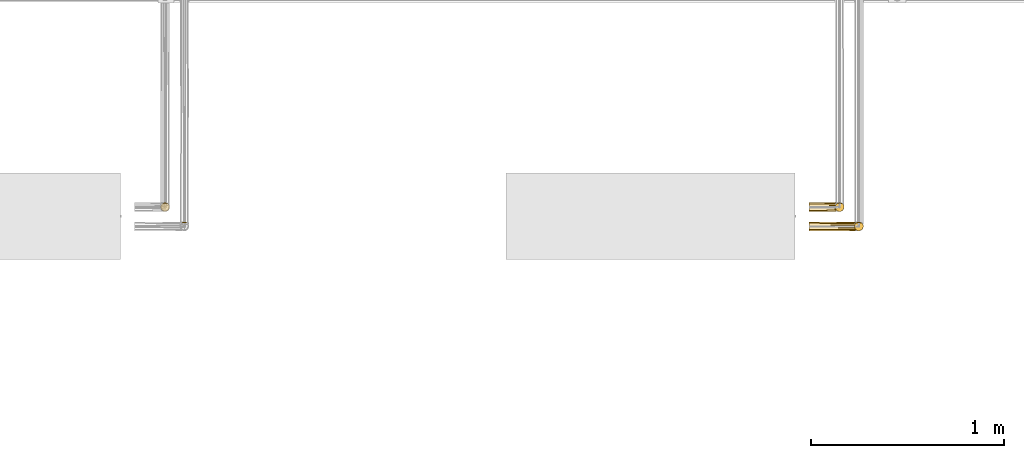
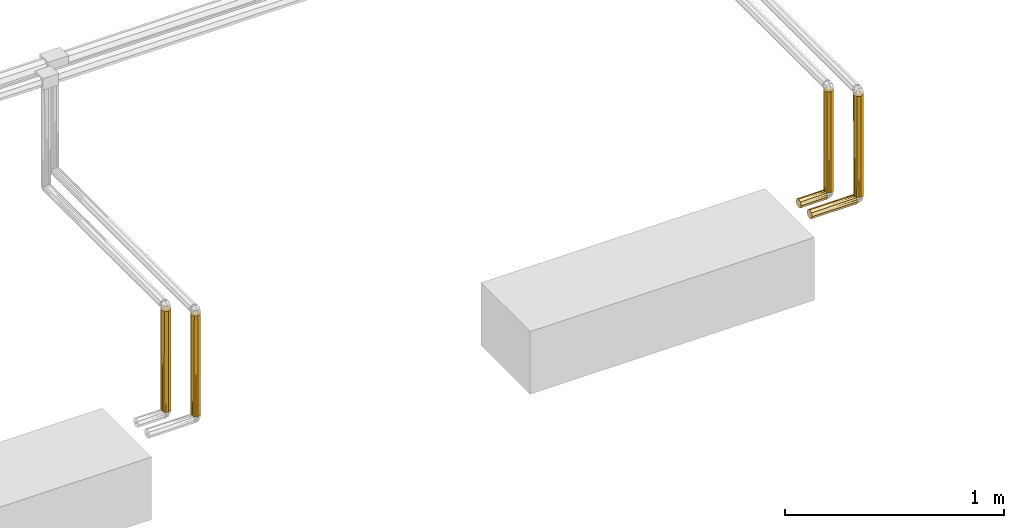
# One storey, part 222 of 652: 6 coverings.
"""IFC2X3 building model written with IfcOpenShell, lengths in millimetres."""

from ifc_helpers import new_model, entity, si_unit, converted_unit, direction, frame, origin, place, context, subcontext, project, spatial, faceted_brep, material, type_object, element, save


model = new_model("IFC2X3")

# Units and contexts
model_context = context("Model", 3, precision=0.01, world=frame((0.0, 0.0, 308426.39999999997)), true_north=direction((6.123233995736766e-17, 1.0)))
plan_context = context("Plan", 3, precision=0.01, world=frame((0.0, 0.0, 308426.39999999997)), true_north=direction((6.123233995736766e-17, 1.0)))
body_context = subcontext(model_context, "Body", "Model", "MODEL_VIEW")
ifc_project = project(units=[si_unit("LENGTHUNIT", "METRE", prefix="MILLI"), si_unit("AREAUNIT", "SQUARE_METRE"), si_unit("VOLUMEUNIT", "CUBIC_METRE"), converted_unit("PLANEANGLEUNIT", "DEGREE", entity("IfcPlaneAngleMeasure", 0.017453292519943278), si_unit("PLANEANGLEUNIT", "RADIAN"), dimensions=[0, 0, 0, 0, 0, 0, 0])], contexts=[model_context, plan_context])

# Site, building, storey
site_placement = place(None, origin())
site = spatial("IfcSite", under=ifc_project, at=site_placement, Name="Default", CompositionType="ELEMENT")
building_placement = place(site_placement, origin())
building = spatial("IfcBuilding", under=site, at=building_placement, CompositionType="ELEMENT")
storey_placement = place(building_placement, frame((0.0, 0.0, 1730.6999999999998)))
storey = spatial("IfcBuildingStorey", under=building, at=storey_placement, Name="EG_Produktion_FFB", CompositionType="ELEMENT", Elevation=1730.6999999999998)

# Coverings
ifc_material = material(Name="Dämmung - Armaflex-Schlauch")
covering_type = type_object("IfcCoveringType", Name="Rohrdämmung außen:Armaflex-Schlauch", PredefinedType="INSULATION")
covering_1_placement = place(storey_placement, frame((69406.95466089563, 66844.67878550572, 2716.3549777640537)))
element("IfcCovering", 1, at=covering_1_placement, inside=storey, type_object=covering_type, material=ifc_material, Name="Rohrdämmung außen:Armaflex-Schlauch", ObjectType="Rohrdämmung außen:Armaflex-Schlauch", PredefinedType="INSULATION", context=body_context, shape_type="Brep", body=[
    faceted_brep([(7.407522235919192, 9.787128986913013, 1.5952722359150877), (7.407522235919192, 40.92841548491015, 1.5952722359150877), (11.448105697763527, 43.951164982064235, 1.5952722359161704), (15.488689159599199, 46.97391447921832, 1.595272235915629), (20.42323069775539, 48.047093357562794, 1.595272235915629), (25.35777223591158, 49.12027223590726, 1.595272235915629), (29.558428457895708, 47.3803034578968, 1.595272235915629), (33.759084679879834, 45.64033467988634, 1.595272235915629), (37.95974090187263, 43.90036590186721, 1.595272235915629), (42.160397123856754, 42.160397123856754, 1.595272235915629), (43.90036590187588, 37.95974090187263, 1.5952722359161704), (45.64033467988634, 33.759084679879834, 1.595272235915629), (47.253562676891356, 29.864407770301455, 1.5952722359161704), (49.12027223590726, 25.35777223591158, 1.5952722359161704), (47.253562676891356, 20.851136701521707, 1.5952722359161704), (45.64033467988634, 16.956459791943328, 1.595272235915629), (43.90036590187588, 12.755803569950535, 1.5952722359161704), (42.160397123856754, 8.55514734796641, 1.595272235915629), (37.95974090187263, 6.815178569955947, 1.595272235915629), (33.759084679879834, 5.075209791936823, 1.595272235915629), (29.864407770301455, 3.4619817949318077, 1.5952722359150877), (25.35777223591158, 1.5952722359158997, 1.595272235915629), (20.42323069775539, 2.6684511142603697, 1.595272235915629), (15.488689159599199, 3.7416299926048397, 1.595272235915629), (11.448105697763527, 6.764379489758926, 1.595272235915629), (25.357772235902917, 1.5952722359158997, 565.6947722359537), (29.864407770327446, 3.4619817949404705, 565.6947722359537), (34.37104330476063, 5.328691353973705, 565.6947722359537), (38.26572021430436, 6.941919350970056, 565.6947722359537), (42.16039712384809, 8.55514734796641, 565.6947722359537), (43.90036590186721, 12.755803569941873, 565.6947722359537), (45.64033467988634, 16.956459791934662, 565.6947722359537), (47.38030345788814, 21.157116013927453, 565.6947722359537), (49.1202722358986, 25.35777223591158, 565.6947722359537), (48.047093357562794, 30.29231377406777, 565.6947722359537), (46.97391447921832, 35.22685531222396, 565.6947722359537), (43.95116498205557, 39.267438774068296, 565.6947722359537), (40.92841548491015, 43.30802223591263, 565.6947722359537), (9.787128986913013, 43.30802223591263, 565.6947722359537), (6.764379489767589, 39.26743877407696, 565.6947722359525), (3.7416299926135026, 35.22685531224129, 565.6947722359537), (2.6684511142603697, 30.292313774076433, 565.6947722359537), (1.5952722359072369, 25.35777223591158, 565.6947722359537), (3.3352410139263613, 21.157116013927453, 565.6947722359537), (5.075209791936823, 16.956459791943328, 565.6947722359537), (6.815178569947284, 12.755803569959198, 565.6947722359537), (8.555147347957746, 8.55514734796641, 565.6947722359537), (12.755803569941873, 6.815178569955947, 565.6947722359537), (16.956459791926, 5.075209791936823, 565.6947722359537), (21.15711601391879, 3.3352410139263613, 565.6947722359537), (2.345488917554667, 29.512793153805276, 6.6573055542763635), (1.5952722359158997, 25.35777223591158, 7.407522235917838), (3.095705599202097, 33.66781407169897, 5.90708887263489), (5.251613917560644, 37.2981147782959, 3.751180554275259), (13.417429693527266, 45.46393055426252, 563.5388639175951), (17.04773040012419, 47.61983887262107, 561.3829555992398), (21.202751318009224, 48.3700555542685, 560.6327389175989), (25.357772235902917, 49.12027223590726, 559.8825222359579), (29.51279315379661, 48.3700555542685, 560.6327389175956), (33.66781407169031, 47.61983887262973, 561.3829555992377), (37.2981147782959, 45.46393055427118, 563.5388639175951), (2.345488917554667, 21.202751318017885, 6.657305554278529), (5.251613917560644, 13.417429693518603, 3.751180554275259), (3.095705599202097, 17.04773040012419, 5.90708887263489)], [[[0, 1, 2, 3, 4, 5, 6, 7, 8, 9, 10, 11, 12, 13, 14, 15, 16, 17, 18, 19, 20, 21, 22, 23, 24]], [[25, 26, 27, 28, 29, 30, 31, 32, 33, 34, 35, 36, 37, 38, 39, 40, 41, 42, 43, 44, 45, 46, 47, 48, 49]], [[50, 51, 42]], [[41, 52, 50]], [[53, 39, 1]], [[2, 54, 3]], [[54, 55, 3]], [[54, 2, 38]], [[53, 52, 40]], [[56, 5, 4]], [[40, 52, 41]], [[56, 57, 5]], [[50, 42, 41]], [[39, 38, 1]], [[39, 53, 40]], [[2, 1, 38]], [[4, 55, 56]], [[3, 55, 4]], [[57, 58, 5]], [[34, 33, 12]], [[6, 58, 59]], [[35, 10, 36]], [[60, 7, 59]], [[9, 37, 36]], [[35, 34, 11]], [[11, 34, 12]], [[5, 58, 6]], [[36, 10, 9]], [[33, 13, 12]], [[35, 11, 10]], [[7, 60, 8]], [[37, 8, 60]], [[6, 59, 7]], [[8, 37, 9]], [[13, 33, 32, 31, 30, 29, 17, 16, 15, 14]], [[17, 29, 28, 27, 26, 25, 21, 20, 19, 18]], [[24, 47, 46]], [[25, 49, 21]], [[48, 23, 22]], [[48, 47, 23]], [[42, 61, 43]], [[0, 45, 62]], [[63, 44, 43]], [[22, 49, 48]], [[44, 63, 62]], [[23, 47, 24]], [[61, 63, 43]], [[21, 49, 22]], [[46, 0, 24]], [[51, 61, 42]], [[45, 0, 46]], [[45, 44, 62]], [[50, 52, 53, 1, 0, 62, 63, 61, 51]], [[37, 60, 59, 58, 57, 56, 55, 54, 38]]]),
])
covering_2_placement = place(storey_placement, frame((69306.95466089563, 66944.67878550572, 2716.3549777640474)))
element("IfcCovering", 2, at=covering_2_placement, inside=storey, type_object=covering_type, material=ifc_material, Name="Rohrdämmung außen:Armaflex-Schlauch", ObjectType="Rohrdämmung außen:Armaflex-Schlauch", PredefinedType="INSULATION", context=body_context, shape_type="Brep", body=[
    faceted_brep([(7.407522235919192, 9.78712898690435, 1.5952722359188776), (7.407522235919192, 40.92841548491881, 1.5952722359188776), (11.448105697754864, 43.951164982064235, 1.5952722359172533), (15.488689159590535, 46.97391447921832, 1.5952722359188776), (20.423230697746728, 48.047093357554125, 1.5952722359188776), (25.35777223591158, 49.12027223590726, 1.5952722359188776), (29.558428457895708, 47.38030345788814, 1.5952722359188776), (33.759084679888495, 45.640334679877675, 1.5952722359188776), (37.95974090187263, 43.90036590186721, 1.5952722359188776), (42.160397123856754, 42.160397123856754, 1.5952722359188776), (43.90036590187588, 37.95974090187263, 1.5952722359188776), (45.640334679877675, 33.759084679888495, 1.5952722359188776), (47.253562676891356, 29.86440777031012, 1.5952722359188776), (49.12027223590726, 25.35777223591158, 1.5952722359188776), (47.253562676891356, 20.851136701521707, 1.5952722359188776), (45.640334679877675, 16.956459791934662, 1.5952722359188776), (43.90036590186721, 12.755803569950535, 1.5952722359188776), (42.160397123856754, 8.55514734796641, 1.5952722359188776), (37.95974090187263, 6.815178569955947, 1.5952722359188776), (33.759084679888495, 5.075209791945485, 1.5952722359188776), (29.864407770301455, 3.4619817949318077, 1.5952722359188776), (25.35777223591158, 1.5952722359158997, 1.5952722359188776), (20.423230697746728, 2.6684511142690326, 1.5952722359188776), (15.488689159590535, 3.7416299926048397, 1.5952722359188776), (11.448105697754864, 6.764379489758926, 1.5952722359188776), (9.787128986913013, 43.30802223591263, 565.6947722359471), (6.764379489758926, 39.267438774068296, 565.6947722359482), (3.7416299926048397, 35.22685531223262, 565.6947722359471), (2.6684511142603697, 30.29231377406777, 565.6947722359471), (1.5952722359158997, 25.35777223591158, 565.6947722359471), (3.335241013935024, 21.157116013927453, 565.6947722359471), (5.075209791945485, 16.956459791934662, 565.6947722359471), (6.815178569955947, 12.755803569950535, 565.6947722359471), (8.55514734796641, 8.55514734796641, 565.6947722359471), (12.755803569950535, 6.815178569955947, 565.6947722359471), (16.956459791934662, 5.075209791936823, 565.6947722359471), (21.157116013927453, 3.3352410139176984, 565.6947722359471), (25.35777223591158, 1.5952722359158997, 565.6947722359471), (29.864407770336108, 3.4619817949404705, 565.6947722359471), (34.37104330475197, 5.328691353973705, 565.6947722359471), (38.26572021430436, 6.941919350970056, 565.6947722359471), (42.160397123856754, 8.55514734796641, 565.6947722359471), (43.90036590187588, 12.755803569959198, 565.6947722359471), (45.640334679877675, 16.956459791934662, 565.6947722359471), (47.38030345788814, 21.15711601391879, 565.6947722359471), (49.12027223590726, 25.35777223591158, 565.6947722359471), (48.047093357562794, 30.29231377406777, 565.6947722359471), (46.97391447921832, 35.22685531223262, 565.6947722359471), (43.951164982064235, 39.267438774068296, 565.6947722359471), (40.92841548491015, 43.30802223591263, 565.6947722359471), (2.34548891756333, 29.512793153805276, 6.6573055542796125), (1.5952722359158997, 25.35777223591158, 7.407522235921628), (3.095705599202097, 33.66781407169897, 5.907088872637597), (5.251613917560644, 37.29811477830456, 3.751180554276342), (13.417429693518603, 45.46393055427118, 563.5388639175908), (17.04773040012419, 47.61983887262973, 561.3829555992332), (21.202751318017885, 48.3700555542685, 560.6327389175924), (25.35777223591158, 49.12027223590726, 559.8825222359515), (29.512793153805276, 48.3700555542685, 560.6327389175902), (33.66781407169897, 47.61983887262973, 561.3829555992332), (37.29811477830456, 45.46393055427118, 563.5388639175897), (2.34548891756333, 21.202751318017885, 6.657305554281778), (5.2516139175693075, 13.417429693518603, 3.7511805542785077), (3.095705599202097, 17.04773040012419, 5.907088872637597)], [[[0, 1, 2, 3, 4, 5, 6, 7, 8, 9, 10, 11, 12, 13, 14, 15, 16, 17, 18, 19, 20, 21, 22, 23, 24]], [[25, 26, 27, 28, 29, 30, 31, 32, 33, 34, 35, 36, 37, 38, 39, 40, 41, 42, 43, 44, 45, 46, 47, 48, 49]], [[50, 51, 29]], [[28, 52, 50]], [[53, 26, 1]], [[2, 54, 3]], [[54, 55, 3]], [[54, 2, 25]], [[53, 52, 27]], [[56, 5, 4]], [[27, 52, 28]], [[56, 57, 5]], [[50, 29, 28]], [[26, 25, 1]], [[26, 53, 27]], [[2, 1, 25]], [[4, 55, 56]], [[3, 55, 4]], [[57, 58, 5]], [[46, 45, 12]], [[6, 58, 59]], [[47, 10, 48]], [[60, 7, 59]], [[9, 49, 48]], [[47, 46, 11]], [[11, 46, 12]], [[5, 58, 6]], [[48, 10, 9]], [[45, 13, 12]], [[47, 11, 10]], [[7, 60, 8]], [[49, 8, 60]], [[6, 59, 7]], [[8, 49, 9]], [[13, 45, 44, 43, 42, 41, 17, 16, 15, 14]], [[17, 41, 40, 39, 38, 37, 21, 20, 19, 18]], [[24, 34, 33]], [[37, 36, 21]], [[35, 23, 22]], [[35, 34, 23]], [[29, 61, 30]], [[0, 32, 62]], [[63, 31, 30]], [[22, 36, 35]], [[31, 63, 62]], [[23, 34, 24]], [[61, 63, 30]], [[21, 36, 22]], [[33, 0, 24]], [[51, 61, 29]], [[32, 0, 33]], [[32, 31, 62]], [[50, 52, 53, 1, 0, 62, 63, 61, 51]], [[49, 60, 59, 58, 57, 56, 55, 54, 25]]]),
])
covering_3_placement = place(storey_placement, frame((72674.36218313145, 66844.67878550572, 2725.3577722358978)))
element("IfcCovering", 3, at=covering_3_placement, inside=storey, type_object=covering_type, material=ifc_material, Name="Rohrdämmung außen:Armaflex-Schlauch", ObjectType="Rohrdämmung außen:Armaflex-Schlauch", PredefinedType="INSULATION", context=body_context, shape_type="Brep", body=[
    faceted_brep([(240.0, 1.5952722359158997, -25.357772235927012), (240.0, 3.3352410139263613, -29.558428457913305), (240.0, 5.075209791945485, -33.759084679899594), (240.0, 6.815178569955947, -37.95974090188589), (240.0, 8.55514734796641, -42.16039712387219), (240.0, 12.755803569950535, -43.90036590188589), (240.0, 16.956459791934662, -45.6403346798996), (240.0, 21.15711601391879, -47.380303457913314), (240.0, 25.35777223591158, -49.120272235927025), (240.0, 30.654003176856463, -46.92650155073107), (240.0, 33.759084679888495, -45.6403346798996), (240.0, 37.95974090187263, -43.90036590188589), (240.0, 42.160397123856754, -42.16039712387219), (240.0, 43.90036590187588, -37.95974090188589), (240.0, 45.640334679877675, -33.759084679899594), (240.0, 47.38030345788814, -29.558428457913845), (240.0, 49.12027223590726, -25.357772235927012), (240.0, 48.047093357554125, -20.423230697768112), (240.0, 46.97391447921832, -15.488689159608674), (240.0, 43.951164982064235, -11.448105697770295), (240.0, 40.92841548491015, -7.407522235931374), (240.0, 9.787128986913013, -7.407522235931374), (240.0, 6.764379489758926, -11.448105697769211), (240.0, 3.7416299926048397, -15.488689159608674), (240.0, 2.6684511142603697, -20.423230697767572), (0.0, 37.95974090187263, -43.900365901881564), (0.0, 33.759084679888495, -45.640334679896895), (0.0, 29.55842845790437, -47.380303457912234), (0.0, 25.35777223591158, -49.12027223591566), (0.0, 20.061541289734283, -46.92650154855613), (0.0, 14.765310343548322, -44.73273086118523), (0.0, 8.55514734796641, -42.16039712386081), (0.0, 6.815178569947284, -37.95974090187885), (0.0, 5.075209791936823, -33.75908467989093), (0.0, 3.3352410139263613, -29.55842845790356), (0.0, 1.5952722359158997, -25.35777223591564), (0.0, 3.7890429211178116, -20.061541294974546), (0.0, 5.075209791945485, -16.95645979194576), (0.0, 6.815178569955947, -12.755803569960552), (0.0, 8.55514734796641, -8.55514734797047), (0.0, 12.755803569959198, -6.8151785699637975), (0.0, 16.956459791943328, -5.0752097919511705), (0.0, 21.157116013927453, -3.335241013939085), (0.0, 25.35777223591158, -1.595272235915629), (0.0, 29.558428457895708, -3.335241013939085), (0.0, 33.759084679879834, -5.0752097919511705), (0.0, 37.95974090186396, -6.8151785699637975), (0.0, 42.160397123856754, -8.55514734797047), (0.0, 43.90036590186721, -12.755803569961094), (0.0, 45.640334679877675, -16.95645979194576), (0.0, 47.38030345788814, -21.157116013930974), (0.0, 49.12027223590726, -25.35777223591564), (0.0, 46.92650155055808, -30.65400317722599), (0.0, 44.7327308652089, -35.95023411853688), (0.0, 42.160397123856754, -42.16039712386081), (237.84409168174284, 37.29811477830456, -5.2516139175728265), (235.68818336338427, 33.66781407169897, -3.095705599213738), (234.93796668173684, 29.512793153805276, -2.3454889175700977), (234.18775000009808, 25.35777223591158, -1.595272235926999), (234.93796668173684, 21.202751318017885, -2.3454889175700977), (237.84409168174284, 13.417429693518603, -5.251613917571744), (235.68818336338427, 17.04773040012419, -3.095705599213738)], [[[0, 1, 2, 3, 4, 5, 6, 7, 8, 9, 10, 11, 12, 13, 14, 15, 16, 17, 18, 19, 20, 21, 22, 23, 24]], [[25, 26, 27, 28, 29, 30, 31, 32, 33, 34, 35, 36, 37, 38, 39, 40, 41, 42, 43, 44, 45, 46, 47, 48, 49, 50, 51, 52, 53, 54]], [[33, 32, 31, 4, 3, 2, 1, 0, 35, 34]], [[31, 30, 29, 28, 8, 7, 6, 5, 4]], [[51, 16, 15, 14, 13, 12, 54, 53, 52]], [[11, 10, 9, 8, 28, 27, 26, 25, 54, 12]], [[19, 48, 47]], [[16, 50, 17]], [[55, 20, 46]], [[49, 18, 17]], [[49, 48, 18]], [[51, 50, 16]], [[20, 47, 46]], [[56, 45, 44]], [[17, 50, 49]], [[55, 45, 56]], [[18, 48, 19]], [[57, 56, 44]], [[45, 55, 46]], [[47, 20, 19]], [[43, 57, 44]], [[58, 57, 43]], [[43, 59, 58]], [[38, 37, 23]], [[59, 43, 42]], [[21, 40, 39]], [[60, 41, 40]], [[39, 22, 21]], [[37, 24, 23]], [[60, 61, 41]], [[41, 61, 42]], [[35, 24, 37, 36]], [[40, 21, 60]], [[38, 23, 22]], [[22, 39, 38]], [[42, 61, 59]], [[35, 0, 24]], [[59, 61, 60, 21, 20, 55, 56, 57, 58]]]),
])
covering_4_placement = place(storey_placement, frame((72674.36218313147, 66944.67878550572, 2725.357772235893)))
element("IfcCovering", 4, at=covering_4_placement, inside=storey, type_object=covering_type, material=ifc_material, Name="Rohrdämmung außen:Armaflex-Schlauch", ObjectType="Rohrdämmung außen:Armaflex-Schlauch", PredefinedType="INSULATION", context=body_context, shape_type="Brep", body=[
    faceted_brep([(140.0, 1.5952722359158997, -25.357772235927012), (140.0, 3.3352410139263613, -29.558428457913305), (140.0, 5.075209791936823, -33.759084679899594), (140.0, 6.815178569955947, -37.95974090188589), (140.0, 8.55514734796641, -42.16039712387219), (140.0, 12.755803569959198, -43.90036590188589), (140.0, 16.956459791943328, -45.6403346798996), (140.0, 20.818145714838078, -47.23989736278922), (140.0, 25.35777223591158, -49.120272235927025), (140.0, 29.89739875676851, -47.239897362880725), (140.0, 33.759084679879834, -45.6403346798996), (140.0, 37.95974090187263, -43.90036590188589), (140.0, 42.160397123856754, -42.16039712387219), (140.0, 43.90036590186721, -37.95974090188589), (140.0, 45.64033467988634, -33.759084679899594), (140.0, 47.23989736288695, -29.897398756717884), (140.0, 49.12027223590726, -25.357772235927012), (140.0, 48.047093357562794, -20.423230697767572), (140.0, 46.97391447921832, -15.488689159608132), (140.0, 43.951164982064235, -11.448105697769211), (140.0, 40.92841548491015, -7.407522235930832), (140.0, 9.787128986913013, -7.407522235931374), (140.0, 6.764379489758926, -11.448105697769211), (140.0, 3.7416299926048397, -15.488689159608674), (140.0, 2.6684511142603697, -20.423230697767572), (0.0, 37.95974090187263, -43.900365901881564), (0.0, 33.759084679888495, -45.640334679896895), (0.0, 29.55842845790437, -47.38030345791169), (0.0, 25.35777223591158, -49.12027223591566), (0.0, 20.818145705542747, -47.23989735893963), (0.0, 16.278519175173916, -45.35952248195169), (0.0, 12.416833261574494, -43.759959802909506), (0.0, 8.55514734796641, -42.16039712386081), (0.0, 6.815178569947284, -37.95974090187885), (0.0, 5.075209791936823, -33.75908467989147), (0.0, 3.3352410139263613, -29.55842845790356), (0.0, 1.5952722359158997, -25.35777223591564), (0.0, 3.4756471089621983, -20.818145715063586), (0.0, 5.075209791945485, -16.95645979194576), (0.0, 6.81517856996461, -12.755803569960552), (0.0, 8.55514734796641, -8.55514734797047), (0.0, 12.755803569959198, -6.8151785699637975), (0.0, 16.956459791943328, -5.075209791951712), (0.0, 21.157116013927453, -3.335241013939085), (0.0, 25.35777223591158, -1.595272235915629), (0.0, 29.558428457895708, -3.335241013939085), (0.0, 33.759084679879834, -5.0752097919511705), (0.0, 37.95974090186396, -6.8151785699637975), (0.0, 42.160397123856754, -8.55514734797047), (0.0, 43.90036590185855, -12.755803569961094), (0.0, 45.640334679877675, -16.95645979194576), (0.0, 47.38030345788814, -21.157116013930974), (0.0, 49.12027223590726, -25.35777223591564), (0.0, 47.239897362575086, -29.89739875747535), (0.0, 45.35952248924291, -34.4370252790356), (0.0, 43.759959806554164, -38.298711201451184), (0.0, 42.160397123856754, -42.16039712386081), (137.84409168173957, 37.29811477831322, -5.251613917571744), (135.68818336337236, 33.66781407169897, -3.095705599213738), (134.9379666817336, 29.512793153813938, -2.3454889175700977), (134.18775000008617, 25.35777223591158, -1.595272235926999), (134.9379666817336, 21.202751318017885, -2.3454889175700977), (137.84409168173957, 13.417429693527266, -5.251613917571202), (135.68818336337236, 17.04773040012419, -3.095705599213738)], [[[0, 1, 2, 3, 4, 5, 6, 7, 8, 9, 10, 11, 12, 13, 14, 15, 16, 17, 18, 19, 20, 21, 22, 23, 24]], [[25, 26, 27, 28, 29, 30, 31, 32, 33, 34, 35, 36, 37, 38, 39, 40, 41, 42, 43, 44, 45, 46, 47, 48, 49, 50, 51, 52, 53, 54, 55, 56]], [[33, 32, 4, 3, 2, 1, 0, 36, 35, 34]], [[4, 32, 31, 30, 29, 28, 8, 7, 6, 5]], [[8, 28, 27, 26, 25, 56, 12, 11, 10, 9]], [[12, 56, 55, 54, 53, 52, 16, 15, 14, 13]], [[19, 49, 48]], [[16, 51, 17]], [[57, 20, 47]], [[50, 18, 17]], [[50, 49, 18]], [[52, 51, 16]], [[20, 48, 47]], [[58, 46, 45]], [[17, 51, 50]], [[57, 46, 58]], [[18, 49, 19]], [[59, 58, 45]], [[46, 57, 47]], [[48, 20, 19]], [[44, 59, 45]], [[60, 59, 44]], [[44, 61, 60]], [[39, 38, 23]], [[61, 44, 43]], [[21, 41, 40]], [[62, 42, 41]], [[40, 22, 21]], [[38, 24, 23]], [[62, 63, 42]], [[42, 63, 43]], [[37, 0, 24]], [[41, 21, 62]], [[39, 23, 22]], [[22, 40, 39]], [[43, 63, 61]], [[24, 38, 37]], [[37, 36, 0]], [[61, 63, 62, 21, 20, 57, 58, 59, 60]]]),
])
covering_5_placement = place(storey_placement, frame((72906.95466089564, 66844.6787855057, 3283.6450222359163)))
element("IfcCovering", 5, at=covering_5_placement, inside=storey, type_object=covering_type, material=ifc_material, Name="Rohrdämmung außen:Armaflex-Schlauch", ObjectType="Rohrdämmung außen:Armaflex-Schlauch", PredefinedType="INSULATION", context=body_context, shape_type="Brep", body=[
    faceted_brep([(25.35777223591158, 1.5952722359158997, -1.5952722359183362), (29.558428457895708, 3.3352410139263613, -1.5952722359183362), (33.759084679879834, 5.075209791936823, -1.5952722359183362), (37.95974090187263, 6.815178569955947, -1.5952722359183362), (42.160397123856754, 8.55514734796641, -1.5952722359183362), (43.90036590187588, 12.755803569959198, -1.5952722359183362), (45.64033467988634, 16.956459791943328, -1.5952722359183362), (47.253562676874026, 20.851136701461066, -1.5952722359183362), (49.12027223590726, 25.35777223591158, -1.5952722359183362), (48.047093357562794, 30.29231377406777, -1.5952722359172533), (46.97391447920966, 35.2268553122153, -1.5952722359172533), (43.951164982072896, 39.267438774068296, -1.5952722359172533), (40.92841548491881, 43.30802223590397, -1.5952722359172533), (9.787128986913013, 43.30802223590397, -1.5952722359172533), (6.764379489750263, 39.267438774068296, -1.5952722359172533), (3.7416299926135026, 35.2268553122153, -1.5952722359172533), (2.6684511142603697, 30.29231377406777, -1.5952722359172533), (1.5952722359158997, 25.35777223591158, -1.5952722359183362), (3.3352410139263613, 21.157116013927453, -1.5952722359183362), (5.075209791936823, 16.956459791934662, -1.5952722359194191), (6.815178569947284, 12.755803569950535, -1.5952722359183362), (8.55514734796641, 8.55514734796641, -1.5952722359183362), (12.755803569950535, 6.815178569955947, -1.5952722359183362), (16.956459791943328, 5.075209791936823, -1.5952722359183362), (20.85113670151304, 3.4619817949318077, -1.5952722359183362), (37.95974090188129, 6.815178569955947, -565.6947722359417), (33.759084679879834, 5.075209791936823, -565.6947722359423), (29.558428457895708, 3.3352410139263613, -565.6947722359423), (25.35777223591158, 1.5952722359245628, -565.6947722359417), (20.42323069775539, 2.6684511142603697, -565.6947722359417), (15.488689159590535, 3.7416299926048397, -565.6947722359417), (11.448105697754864, 6.764379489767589, -565.6947722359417), (7.407522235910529, 9.787128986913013, -565.6947722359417), (7.407522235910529, 40.92841548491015, -565.6947722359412), (11.4481056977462, 43.95116498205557, -565.6947722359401), (15.488689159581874, 46.97391447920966, -565.6947722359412), (20.423230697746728, 48.047093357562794, -565.6947722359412), (25.35777223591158, 49.12027223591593, -565.6947722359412), (29.558428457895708, 47.3803034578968, -565.6947722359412), (33.759084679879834, 45.64033467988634, -565.6947722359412), (37.95974090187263, 43.90036590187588, -565.6947722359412), (42.160397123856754, 42.160397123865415, -565.6947722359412), (43.90036590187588, 37.95974090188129, -565.6947722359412), (45.64033467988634, 33.759084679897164, -565.6947722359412), (47.3803034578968, 29.558428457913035, -565.6947722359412), (49.12027223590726, 25.357772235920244, -565.6947722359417), (47.253562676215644, 20.851136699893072, -565.6947722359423), (45.38685311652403, 16.344501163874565, -565.6947722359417), (43.77362512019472, 12.449824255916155, -565.6947722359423), (42.160397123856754, 8.55514734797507, -565.6947722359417), (29.512793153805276, 48.3700555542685, -6.657305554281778), (37.29811477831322, 45.46393055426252, -3.7511805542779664), (33.66781407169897, 47.61983887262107, -5.907088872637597), (25.35777223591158, 49.12027223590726, -7.40752223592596), (21.202751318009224, 48.37005555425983, -6.6573055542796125), (17.04773040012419, 47.61983887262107, -5.907088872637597), (13.41742969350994, 45.46393055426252, -3.7511805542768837), (5.251613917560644, 37.2981147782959, -563.5388639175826), (2.345488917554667, 29.512793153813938, -560.6327389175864), (1.5952722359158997, 25.357772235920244, -559.882522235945), (3.095705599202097, 33.66781407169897, -561.3829555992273), (2.345488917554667, 21.20275131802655, -560.6327389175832), (3.095705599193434, 17.047730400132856, -561.3829555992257), (5.251613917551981, 13.417429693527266, -563.5388639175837)], [[[0, 1, 2, 3, 4, 5, 6, 7, 8, 9, 10, 11, 12, 13, 14, 15, 16, 17, 18, 19, 20, 21, 22, 23, 24]], [[25, 26, 27, 28, 29, 30, 31, 32, 33, 34, 35, 36, 37, 38, 39, 40, 41, 42, 43, 44, 45, 46, 47, 48, 49]], [[26, 25, 49, 4, 3, 2, 1, 0, 28, 27]], [[4, 49, 48, 47, 46, 45, 8, 7, 6, 5]], [[11, 42, 41]], [[45, 44, 8]], [[43, 10, 9]], [[43, 42, 10]], [[37, 50, 38]], [[12, 40, 51]], [[52, 39, 38]], [[9, 44, 43]], [[39, 52, 51]], [[10, 42, 11]], [[50, 52, 38]], [[8, 44, 9]], [[41, 12, 11]], [[53, 50, 37]], [[40, 12, 41]], [[40, 39, 51]], [[54, 53, 37]], [[36, 55, 54]], [[56, 34, 13]], [[14, 57, 15]], [[56, 55, 35]], [[57, 14, 33]], [[58, 17, 16]], [[35, 55, 36]], [[58, 59, 17]], [[54, 37, 36]], [[34, 56, 35]], [[15, 60, 16]], [[34, 33, 13]], [[16, 60, 58]], [[14, 13, 33]], [[57, 60, 15]], [[59, 61, 17]], [[29, 28, 24]], [[18, 61, 62]], [[30, 22, 31]], [[63, 19, 62]], [[21, 32, 31]], [[30, 29, 23]], [[23, 29, 24]], [[17, 61, 18]], [[31, 22, 21]], [[28, 0, 24]], [[30, 23, 22]], [[19, 63, 20]], [[32, 20, 63]], [[18, 62, 19]], [[20, 32, 21]], [[52, 50, 53, 54, 55, 56, 13, 12, 51]], [[60, 57, 33, 32, 63, 62, 61, 59, 58]]]),
])
covering_6_placement = place(storey_placement, frame((72806.95466089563, 66944.67878550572, 3283.645022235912)))
element("IfcCovering", 6, at=covering_6_placement, inside=storey, type_object=covering_type, material=ifc_material, Name="Rohrdämmung außen:Armaflex-Schlauch", ObjectType="Rohrdämmung außen:Armaflex-Schlauch", PredefinedType="INSULATION", context=body_context, shape_type="Brep", body=[
    faceted_brep([(1.5952722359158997, 25.357772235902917, -1.5952722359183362), (3.335241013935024, 21.15711601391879, -1.5952722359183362), (5.075209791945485, 16.956459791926, -1.5952722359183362), (6.815178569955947, 12.755803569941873, -1.5952722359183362), (8.55514734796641, 8.555147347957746, -1.5952722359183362), (12.755803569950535, 6.815178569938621, -1.5952722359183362), (16.956459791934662, 5.075209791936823, -1.5952722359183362), (20.851136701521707, 3.461981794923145, -1.5952722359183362), (25.35777223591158, 1.5952722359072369, -1.5952722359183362), (29.55842845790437, 3.3352410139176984, -1.5952722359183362), (33.759084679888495, 5.075209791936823, -1.5952722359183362), (37.95974090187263, 6.815178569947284, -1.5952722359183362), (42.160397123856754, 8.555147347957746, -1.5952722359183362), (43.90036590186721, 12.755803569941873, -1.5952722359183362), (45.640334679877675, 16.956459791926, -1.5952722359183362), (47.253562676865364, 20.851136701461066, -1.5952722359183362), (49.12027223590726, 25.357772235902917, -1.5952722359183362), (48.047093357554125, 30.29231377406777, -1.5952722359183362), (46.97391447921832, 35.22685531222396, -1.5952722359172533), (43.951164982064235, 39.267438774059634, -1.5952722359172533), (40.92841548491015, 43.30802223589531, -1.5952722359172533), (9.787128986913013, 43.30802223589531, -1.5952722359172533), (6.764379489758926, 39.267438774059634, -1.5952722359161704), (3.7416299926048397, 35.22685531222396, -1.5952722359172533), (2.6684511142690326, 30.29231377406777, -1.5952722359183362), (37.95974090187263, 6.815178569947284, -565.6947722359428), (33.759084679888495, 5.07520979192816, -565.6947722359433), (29.55842845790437, 3.3352410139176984, -565.6947722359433), (25.35777223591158, 1.5952722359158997, -565.6947722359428), (20.423230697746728, 2.668451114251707, -565.6947722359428), (15.488689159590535, 3.741629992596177, -565.6947722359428), (11.4481056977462, 6.764379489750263, -565.6947722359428), (7.407522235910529, 9.78712898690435, -565.6947722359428), (7.407522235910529, 40.928415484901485, -565.6947722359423), (11.4481056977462, 43.95116498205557, -565.6947722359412), (15.488689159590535, 46.97391447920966, -565.6947722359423), (20.423230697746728, 48.047093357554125, -565.6947722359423), (25.35777223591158, 49.12027223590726, -565.6947722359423), (29.55842845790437, 47.38030345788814, -565.6947722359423), (33.759084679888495, 45.640334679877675, -565.6947722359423), (37.95974090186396, 43.90036590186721, -565.6947722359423), (42.160397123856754, 42.160397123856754, -565.6947722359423), (43.90036590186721, 37.95974090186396, -565.6947722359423), (45.640334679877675, 33.759084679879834, -565.6947722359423), (47.38030345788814, 29.55842845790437, -565.6947722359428), (49.12027223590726, 25.35777223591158, -565.6947722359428), (47.253562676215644, 20.851136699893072, -565.6947722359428), (45.38685311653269, 16.34450116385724, -565.6947722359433), (43.77362512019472, 12.449824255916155, -565.6947722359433), (42.160397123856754, 8.55514734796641, -565.6947722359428), (29.512793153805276, 48.37005555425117, -6.657305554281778), (37.29811477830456, 45.46393055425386, -3.7511805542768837), (33.66781407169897, 47.6198388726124, -5.907088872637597), (25.35777223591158, 49.1202722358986, -7.40752223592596), (21.202751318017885, 48.37005555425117, -6.6573055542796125), (17.04773040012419, 47.6198388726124, -5.907088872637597), (13.417429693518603, 45.46393055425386, -3.7511805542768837), (5.251613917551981, 37.2981147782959, -563.5388639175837), (2.34548891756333, 29.51279315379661, -560.6327389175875), (1.5952722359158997, 25.35777223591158, -559.882522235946), (3.095705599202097, 33.66781407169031, -561.3829555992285), (2.34548891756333, 21.20275131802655, -560.6327389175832), (3.095705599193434, 17.04773040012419, -561.3829555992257), (5.251613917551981, 13.417429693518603, -563.5388639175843)], [[[0, 1, 2, 3, 4, 5, 6, 7, 8, 9, 10, 11, 12, 13, 14, 15, 16, 17, 18, 19, 20, 21, 22, 23, 24]], [[25, 26, 27, 28, 29, 30, 31, 32, 33, 34, 35, 36, 37, 38, 39, 40, 41, 42, 43, 44, 45, 46, 47, 48, 49]], [[26, 25, 49, 12, 11, 10, 9, 8, 28, 27]], [[12, 49, 48, 47, 46, 45, 16, 15, 14, 13]], [[19, 42, 41]], [[45, 44, 16]], [[43, 18, 17]], [[43, 42, 18]], [[37, 50, 38]], [[20, 40, 51]], [[52, 39, 38]], [[17, 44, 43]], [[39, 52, 51]], [[18, 42, 19]], [[50, 52, 38]], [[16, 44, 17]], [[41, 20, 19]], [[53, 50, 37]], [[40, 20, 41]], [[40, 39, 51]], [[54, 53, 37]], [[36, 55, 54]], [[56, 34, 21]], [[22, 57, 23]], [[56, 55, 35]], [[57, 22, 33]], [[58, 0, 24]], [[35, 55, 36]], [[58, 59, 0]], [[54, 37, 36]], [[34, 56, 35]], [[23, 60, 24]], [[34, 33, 21]], [[24, 60, 58]], [[22, 21, 33]], [[57, 60, 23]], [[59, 61, 0]], [[29, 28, 7]], [[1, 61, 62]], [[30, 5, 31]], [[63, 2, 62]], [[4, 32, 31]], [[30, 29, 6]], [[6, 29, 7]], [[0, 61, 1]], [[31, 5, 4]], [[28, 8, 7]], [[30, 6, 5]], [[2, 63, 3]], [[32, 3, 63]], [[1, 62, 2]], [[3, 32, 4]], [[52, 50, 53, 54, 55, 56, 21, 20, 51]], [[60, 57, 33, 32, 63, 62, 61, 59, 58]]]),
])

save(model, "model.ifc")
